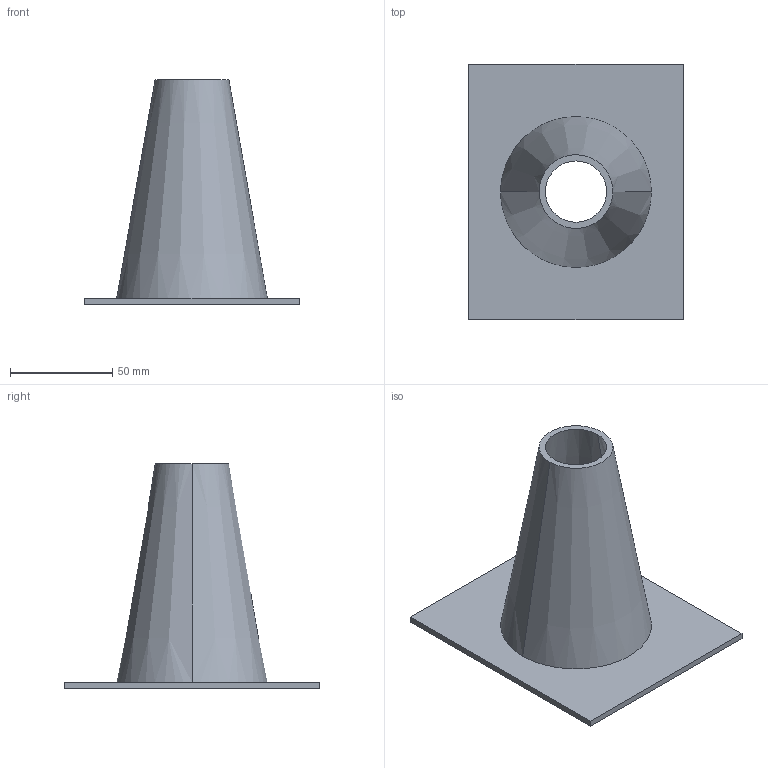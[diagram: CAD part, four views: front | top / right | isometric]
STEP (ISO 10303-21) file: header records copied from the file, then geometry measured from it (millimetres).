
FILE_DESCRIPTION(('CATIA V5 STEP Exchange'),'2;1');
FILE_NAME('C:\_Andres\UNIVERSIDAD\IQS\ASIGNATURAS\DAO\EXF\EXF-15161c\1original\Massaneda_Tuneu_Ej08-ensambla_v15.stp','2016-03-04T21:37:17+00:00',('none'),('none'),'CATIA Version 5 Release 20 SP 1 (IN-10)','CATIA V5 STEP AP203','none');
FILE_SCHEMA(('CONFIG_CONTROL_DESIGN'));
Length unit declared in the file: millimetre
Products named in the file (1): Massaneda_Tuneu_Ej08-ensambla_v15
Bounding box: 105 x 125 x 110 mm (x, y, z)
Volume: 81554.7 mm3; surface area: 56041.8 mm2
Topology: 1 solids, 1 shells, 11 faces, 24 edges, 16 vertices
Faces by surface type: plane 7, cone 4
Entity records: 414 total; most frequent: CARTESIAN_POINT 127, ORIENTED_EDGE 48, DIRECTION 44, EDGE_CURVE 24, AXIS2_PLACEMENT_3D 17, VECTOR 16, LINE 16, VERTEX_POINT 16
